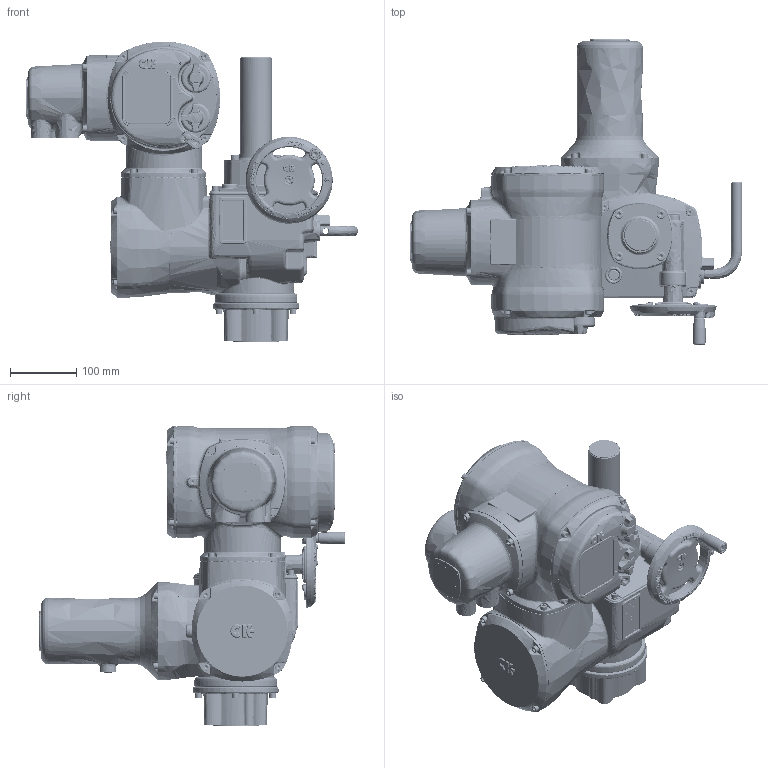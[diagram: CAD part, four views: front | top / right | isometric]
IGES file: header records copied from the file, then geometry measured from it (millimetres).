
Start section: C
Global section: file name: CK120 F10 THRUST BASE - ATRONIK.igs; native system: By Siemens PLM Incorporated; preprocessor: XPlus GENERIC/IGES 21.0.46; author: Author; organization: Title; date: 20181016.122653; units: millimetre
Bounding box: 502.85 x 462.65 x 455.78 mm (x, y, z)
Surface area: 916919.3 mm2 (no closed solid volume)
Topology: 0 solids, 0 shells, 10726 faces, 59159 edges, 58765 vertices
Faces by surface type: bspline 10726
